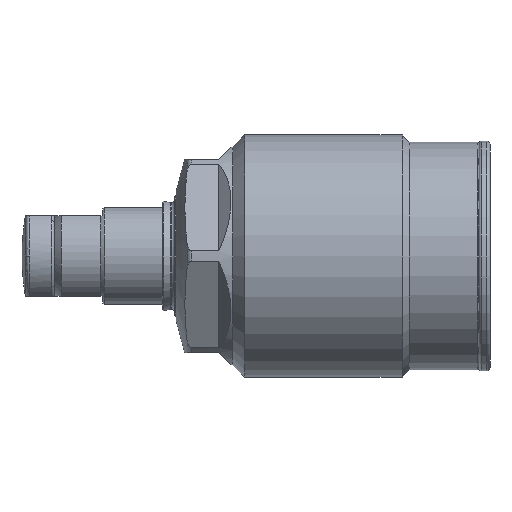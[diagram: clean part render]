
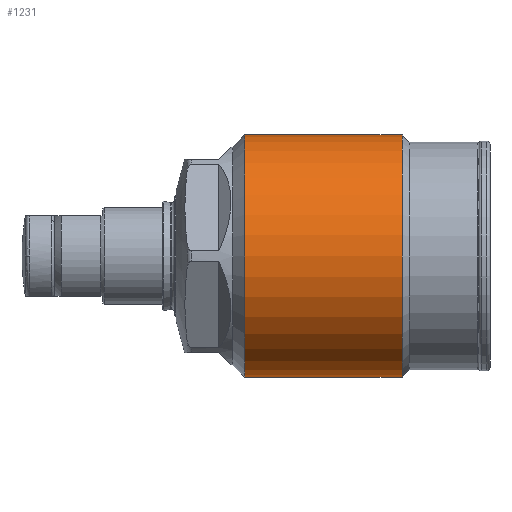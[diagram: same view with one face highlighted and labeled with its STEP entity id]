
A CAD part, left-side view. The second image highlights one B-rep face of the part: STEP entity #1231.
In plain terms, the highlighted cylindrical face has radius 15 mm (diameter 30 mm), a partial arc.
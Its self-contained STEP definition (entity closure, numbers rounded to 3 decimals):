
#948=CYLINDRICAL_SURFACE('',#3477,15.);
#991=LINE('',#4752,#1088);
#992=LINE('',#4756,#1089);
#1088=VECTOR('',#3857,1.);
#1089=VECTOR('',#3860,1.);
#1231=ADVANCED_FACE('',(#1456),#948,.T.);
#1456=FACE_OUTER_BOUND('',#1622,.T.);
#1622=EDGE_LOOP('',(#2023,#2024,#2025,#2026));
#2023=ORIENTED_EDGE('',*,*,#2766,.T.);
#2024=ORIENTED_EDGE('',*,*,#2888,.T.);
#2025=ORIENTED_EDGE('',*,*,#2768,.F.);
#2026=ORIENTED_EDGE('',*,*,#2887,.F.);
#2525=VERTEX_POINT('',#4747);
#2526=VERTEX_POINT('',#4749);
#2527=VERTEX_POINT('',#4753);
#2528=VERTEX_POINT('',#4755);
#2766=EDGE_CURVE('',#2527,#2525,#991,.T.);
#2768=EDGE_CURVE('',#2528,#2526,#992,.T.);
#2887=EDGE_CURVE('',#2527,#2528,#3181,.T.);
#2888=EDGE_CURVE('',#2525,#2526,#3182,.T.);
#3181=CIRCLE('',#3474,15.);
#3182=CIRCLE('',#3476,15.);
#3474=AXIS2_PLACEMENT_3D('',#5219,#4095,#4096);
#3476=AXIS2_PLACEMENT_3D('',#5221,#4099,#4100);
#3477=AXIS2_PLACEMENT_3D('',#5222,#4101,#4102);
#3857=DIRECTION('',(0.,1.,0.));
#3860=DIRECTION('',(0.,1.,0.));
#4095=DIRECTION('',(0.,-1.,0.));
#4096=DIRECTION('',(0.,0.,-1.));
#4099=DIRECTION('',(0.,-1.,0.));
#4100=DIRECTION('',(0.,0.,-1.));
#4101=DIRECTION('',(0.,-1.,0.));
#4102=DIRECTION('',(0.,0.,1.));
#4747=CARTESIAN_POINT('',(37.168,35.522,15.));
#4749=CARTESIAN_POINT('',(37.168,35.522,-15.));
#4752=CARTESIAN_POINT('',(37.168,1.788,15.));
#4753=CARTESIAN_POINT('',(37.168,16.022,15.));
#4755=CARTESIAN_POINT('',(37.168,16.022,-15.));
#4756=CARTESIAN_POINT('',(37.168,1.788,-15.));
#5219=CARTESIAN_POINT('',(37.168,16.022,0.));
#5221=CARTESIAN_POINT('',(37.168,35.522,0.));
#5222=CARTESIAN_POINT('',(37.168,1.788,0.));
